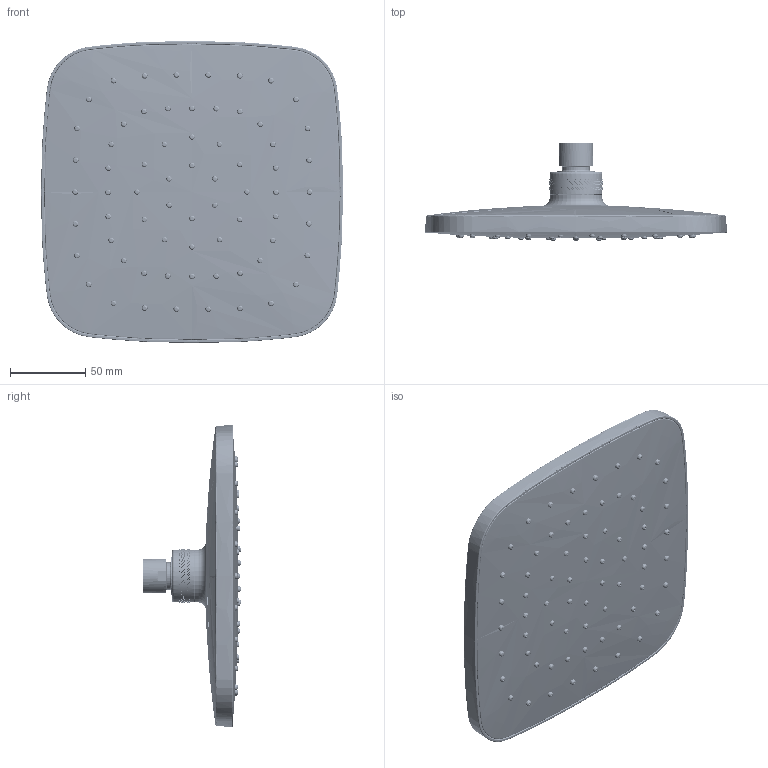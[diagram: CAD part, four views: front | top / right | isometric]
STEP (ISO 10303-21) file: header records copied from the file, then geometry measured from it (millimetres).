
FILE_DESCRIPTION((''),'2;1');
FILE_NAME('76662--00_ASM','2022-10-11T14:18:33',('sosm1'),(''),'CREO PARAMETRIC BY PTC INC, 2018190','CREO PARAMETRIC BY PTC INC, 2018190','');
FILE_SCHEMA(('CONFIG_CONTROL_DESIGN','SHAPE_APPEARANCE_LAYERS_GROUPS'));
Products named in the file (14): 76662--00_POS7; 76662--00_POS8_NOLOGO; 76662--00_POS9; 76662--00_POS3; 76662--00_POS4; 76662--00_SUB03_ASM; 76662--00_POS5; 76662--00_POS6; 76662--00_POS1; 76662--00_POS2; 76662--00_SUB02_NOLOGO_ASM; 76662--00_SOLEX-IGES_NOLOGO_ASM; 76662--00_SUB01_NOLOGO_ASM; 76662--00_ASM
Assembly tree (13 placements, depth 6):
  76662--00_ASM
    76662--00_SUB01_NOLOGO_ASM
      76662--00_SOLEX-IGES_NOLOGO_ASM
        76662--00_SUB02_NOLOGO_ASM
          76662--00_POS7
          76662--00_POS8_NOLOGO
          76662--00_POS9
          76662--00_SUB03_ASM
            76662--00_POS3
            76662--00_POS4
          76662--00_POS5
          76662--00_POS6
          76662--00_POS1
          76662--00_POS2
Bounding box: 199.98 x 64.63 x 199.98 mm (x, y, z)
Volume: 285002.9 mm3; surface area: 252883.7 mm2
Topology: 9 solids, 9 shells, 6618 faces, 16150 edges, 10493 vertices
Faces by surface type: plane 3899, cylinder 1400, bspline 738, cone 461, extrusion 76, torus 40, sphere 4
Entity records: 259002 total; most frequent: CARTESIAN_POINT 100136, ORIENTED_EDGE 32284, DIRECTION 26450, EDGE_CURVE 16142, AXIS2_PLACEMENT_3D 10717, VERTEX_POINT 10493, EDGE_LOOP 7717, FACE_OUTER_BOUND 6618
